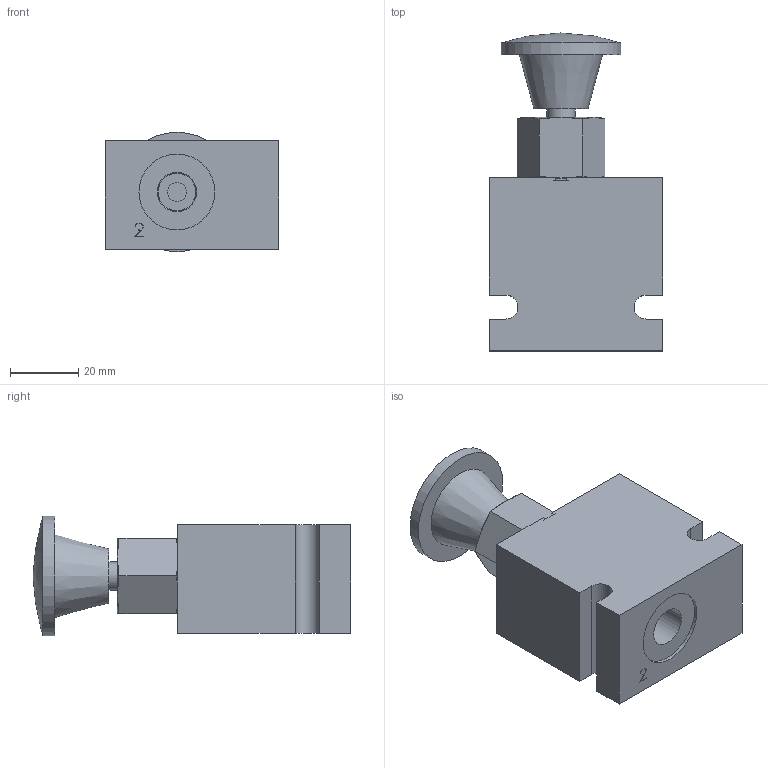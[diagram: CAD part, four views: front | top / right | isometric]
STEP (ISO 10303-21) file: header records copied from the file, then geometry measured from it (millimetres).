
FILE_DESCRIPTION( ( 'Unknown' ), '1' );
FILE_NAME( 'G:/Graphic Design/Graphic Design 2/Data Sheets/MANUAL_MECH OPERATED VALVES/4_STEP/2W2P Manual Valves/D-HBMCP0K-A2.stp', 'Unknown', ( 'Unknown' ), ( 'Unknown' ), 'PSStep 16.0.42', 'Unknown', ' ' );
FILE_SCHEMA( ( 'AUTOMOTIVE_DESIGN { 1 0 10303 214 1 1 1 1 }' ) );
Length unit declared in the file: millimetre
Products named in the file (7): HBMCP0K; HBMCP0K-3D Full1; HBMCP0K-3D Full2; HBMCP0K-3D Full3; HBMCP0K-3D Full4; Assem1; B-DPBA2
Assembly tree (6 placements, depth 3):
  Assem1
    B-DPBA2
    HBMCP0K
      HBMCP0K-3D Full1
      HBMCP0K-3D Full2
      HBMCP0K-3D Full3
      HBMCP0K-3D Full4
Bounding box: 50.8 x 93.04 x 34.92 mm (x, y, z)
Surface area: 22801.8 mm2 (no closed solid volume)
Topology: 0 solids, 141 shells, 141 faces, 591 edges, 541 vertices
Faces by surface type: plane 76, cone 32, cylinder 30, torus 2, sphere 1
Full cylindrical faces by diameter (mm): 0.2 x2, 1.499 x1, 5.563 x2, 5.931 x1, 8.28 x1, 9.881 x1, 9.928 x1, 10.5 x1, 11 x1, 11.5 x4, 12.62 x1, 12.624 x2, 12.7 x1, 15.824 x1, 16.751 x1, 17.33 x2, 22.22 x2, 22.225 x1, 34.925 x1
Entity records: 6972 total; most frequent: CARTESIAN_POINT 1707, DIRECTION 784, VERTEX_POINT 528, ORIENTED_EDGE 526, EDGE_CURVE 526, AXIS2_PLACEMENT_3D 313, FACE_BOUND 212, EDGE_LOOP 210
